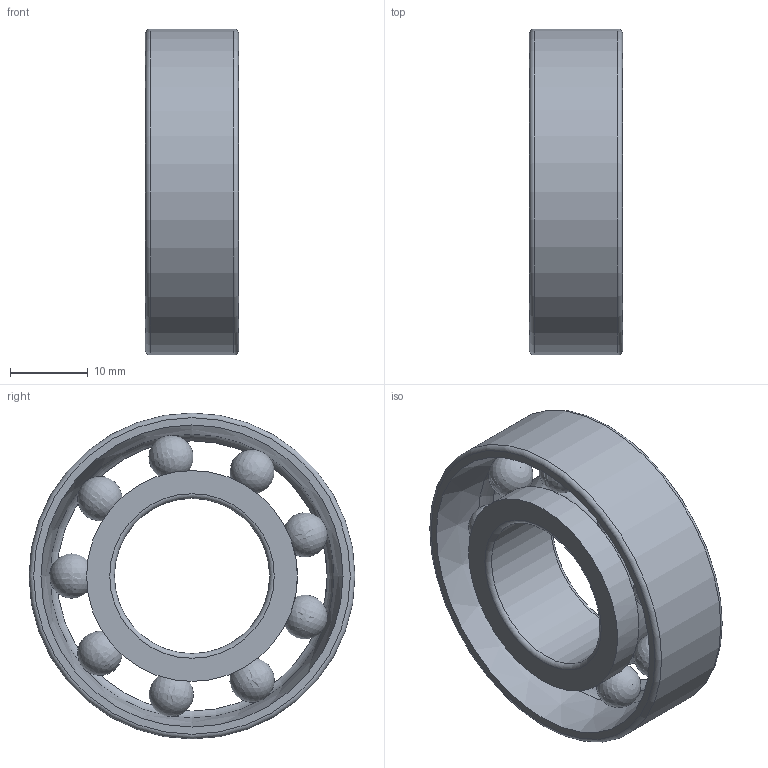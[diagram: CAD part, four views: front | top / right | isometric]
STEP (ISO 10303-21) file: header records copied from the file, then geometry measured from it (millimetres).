
FILE_DESCRIPTION(/* description */ ('Rolling bearings: ball bearings cylindrical and spherical roller bearings- Specification for dimensions of ball bearings, cylindrical and spherical roller bearings'),/* implementation_level */ '2;1');
FILE_NAME(/* name */ 'C:\Users\user\Desktop\Ensamble-reductor-sin-engranes-V2022\BS_292_7004_20x42x12.stp',/* time_stamp */ '2023-02-15T20:23:59-05:00',/* author */ ('user'),/* organization */ (''),/* preprocessor_version */ 'ST-DEVELOPER v18.1',/* originating_system */ 'Autodesk Inventor 2022',/* authorisation */ '');
FILE_SCHEMA (('AUTOMOTIVE_DESIGN { 1 0 10303 214 3 1 1 }'));
Length unit declared in the file: millimetre
Products named in the file (1): BS 292: Part 1 - 7004 - 20 x 42 x 12
Bounding box: 12 x 42 x 42 mm (x, y, z)
Volume: 7803.6 mm3; surface area: 6794.5 mm2
Topology: 11 solids, 11 shells, 41 faces, 111 edges, 74 vertices
Faces by surface type: torus 22, sphere 9, cylinder 5, plane 4, cone 1
Full cylindrical faces by diameter (mm): 20 x1, 27.172 x2, 34.828 x1, 42 x1
Entity records: 1553 total; most frequent: DIRECTION 300, CARTESIAN_POINT 263, ORIENTED_EDGE 222, AXIS2_PLACEMENT_3D 147, EDGE_CURVE 111, VERTEX_POINT 110, CIRCLE 105, EDGE_LOOP 63
